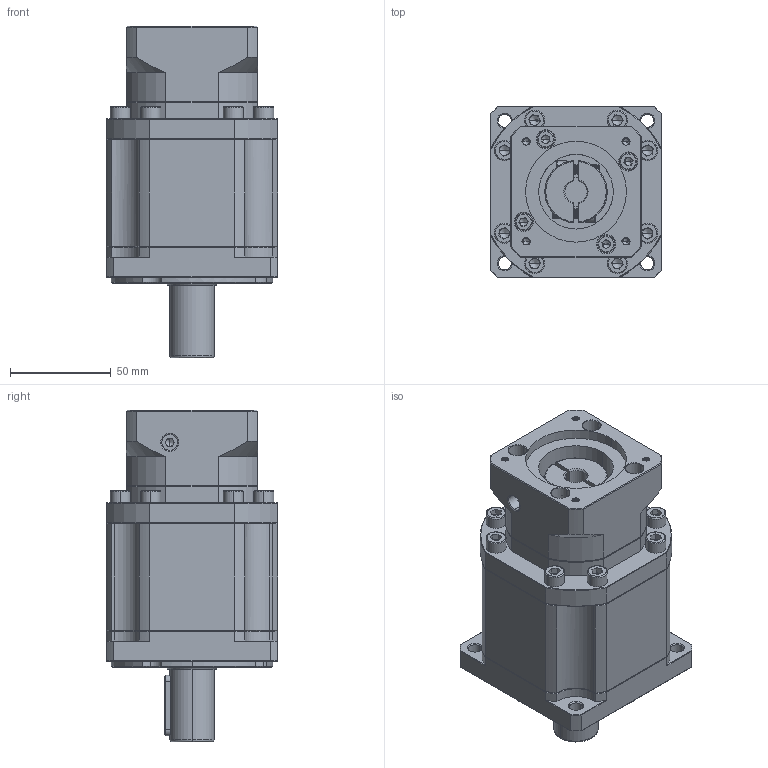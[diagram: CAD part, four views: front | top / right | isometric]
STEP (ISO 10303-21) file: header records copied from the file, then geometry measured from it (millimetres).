
FILE_DESCRIPTION (( 'STEP AP214' ), '1' );
FILE_NAME ('ZB090-D22-L3-P2-11-50-70-M4.step', '2023-08-18T13:37:37', ( '' ), ( '' ), 'SwSTEP 2.0', 'SolidWorks 2016', '' );
FILE_SCHEMA (( 'AUTOMOTIVE_DESIGN' ));
Length unit declared in the file: millimetre
Products named in the file (1): ZB090-D22-L3-P2-11-50-70-M4
Bounding box: 85 x 85 x 164.5 mm (x, y, z)
Volume: 667028.9 mm3; surface area: 82682.4 mm2
Topology: 6 solids, 6 shells, 2348 faces, 6245 edges, 3993 vertices
Faces by surface type: plane 1185, bspline 426, cylinder 394, cone 321, torus 22
Entity records: 123110 total; most frequent: CARTESIAN_POINT 42230, ORIENTED_EDGE 12398, DIRECTION 9884, EDGE_CURVE 6199, VERTEX_POINT 3993, LINE 3924, VECTOR 3924, AXIS2_PLACEMENT_3D 2980
